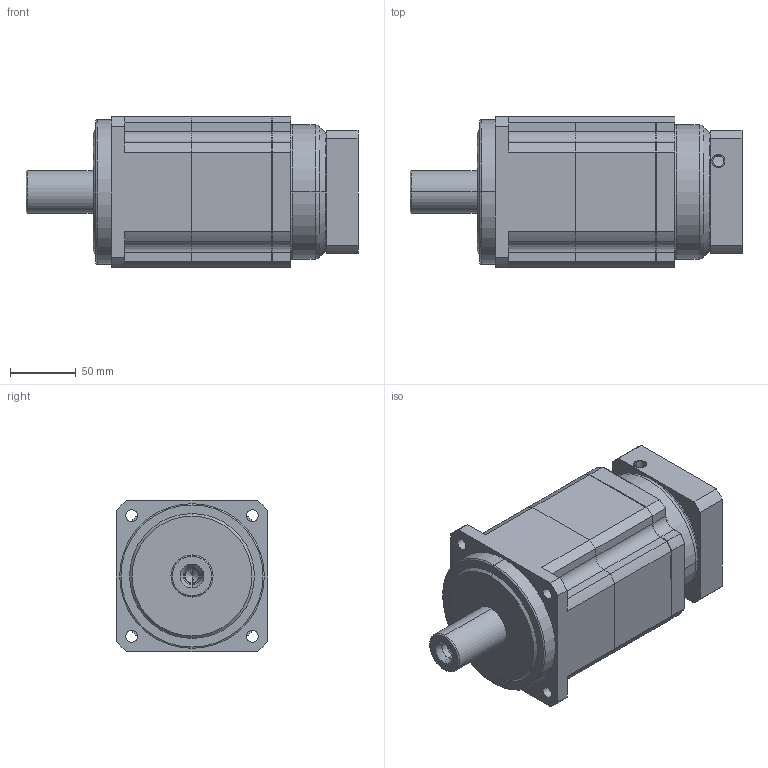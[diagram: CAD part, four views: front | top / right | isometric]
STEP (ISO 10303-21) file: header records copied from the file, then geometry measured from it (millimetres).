
FILE_DESCRIPTION((''),'2;1');
FILE_NAME('AB115A2-P040340A002_ASM','2021-09-14T',('Administrator'),(''),'PRO/ENGINEER BY PARAMETRIC TECHNOLOGY CORPORATION, 2015240','PRO/ENGINEER BY PARAMETRIC TECHNOLOGY CORPORATION, 2015240','');
FILE_SCHEMA(('CONFIG_CONTROL_DESIGN'));
Length unit declared in the file: millimetre
Products named in the file (7): P1301400001_D; AB115A2-1; AB115; AB-INPUTSHAFT-4; AB115A2_ASM; P040340A002-0001; AB115A2-P040340A002_ASM
Assembly tree (6 placements, depth 3):
  AB115A2-P040340A002_ASM
    AB115A2_ASM
      P1301400001_D
      AB115A2-1
      AB115
      AB-INPUTSHAFT-4
    P040340A002-0001
Bounding box: 252.5 x 115 x 115 mm (x, y, z)
Volume: 2059277.1 mm3; surface area: 203810.3 mm2
Topology: 5 solids, 11 shells, 286 faces, 715 edges, 457 vertices
Faces by surface type: cylinder 142, plane 100, cone 22, torus 22
Entity records: 9061 total; most frequent: CARTESIAN_POINT 1754, DIRECTION 1631, ORIENTED_EDGE 1400, EDGE_CURVE 713, AXIS2_PLACEMENT_3D 654, VERTEX_POINT 457, CIRCLE 347, EDGE_LOOP 342
